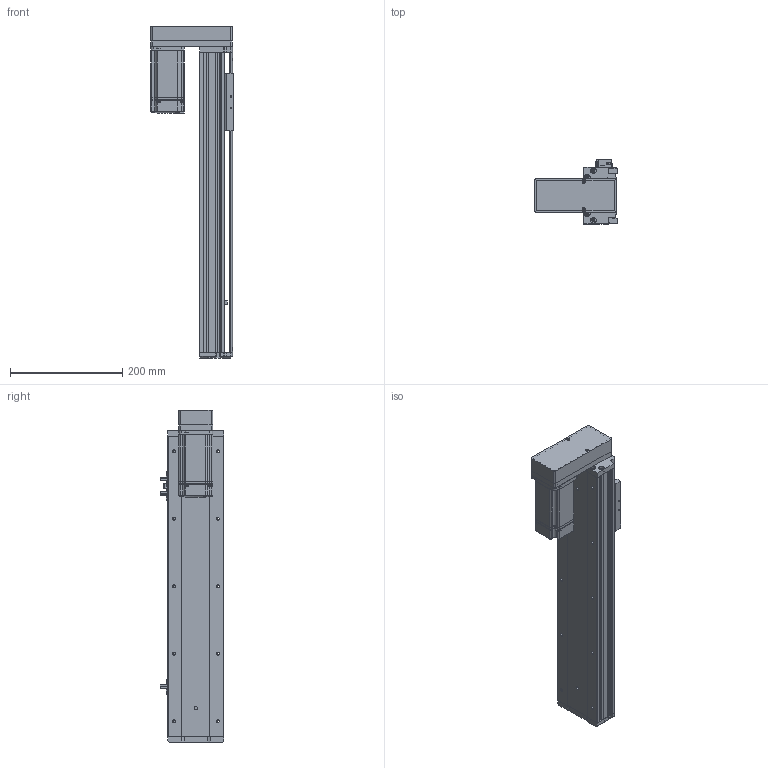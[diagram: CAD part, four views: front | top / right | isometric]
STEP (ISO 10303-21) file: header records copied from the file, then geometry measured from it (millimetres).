
FILE_DESCRIPTION (( 'STEP AP214' ), '1' );
FILE_NAME ('KSD100S-S350-MD-CM.STEP', '2019-08-30T03:16:39', ( '微软用户' ), ( '微软中国' ), 'SwSTEP 2.0', 'SolidWorks 2014', '' );
FILE_SCHEMA (( 'AUTOMOTIVE_DESIGN' ));
Length unit declared in the file: millimetre
Products named in the file (11): 100宽滚珠螺姆安装板半封闭; 100遵傷啣; 100宽底板半封闭丝杆350行程; KSD100S-S350-MD-CM; 悵誘欶奻狟殏; 100宽马达安装板连板上下折丝杆同步带; MHMD042G1CA_2_03; 覜茼え100遵圉猾敕; U倰嫖萇EEㄜSX672; 100宽防尘板丝杆350行程; 100遵鎮湛假蚾啣
Assembly tree (12 placements, depth 2):
  KSD100S-S350-MD-CM
    100宽底板半封闭丝杆350行程
    100遵傷啣
    100宽滚珠螺姆安装板半封闭
    100遵鎮湛假蚾啣
    100宽防尘板丝杆350行程
    U倰嫖萇EEㄜSX672  x3
    覜茼え100遵圉猾敕
    MHMD042G1CA_2_03
    100宽马达安装板连板上下折丝杆同步带
    悵誘欶奻狟殏
Bounding box: 147 x 113.7 x 590.5 mm (x, y, z)
Volume: 1267343.3 mm3; surface area: 516036.5 mm2
Topology: 11 solids, 12 shells, 1429 faces, 4069 edges, 2634 vertices
Faces by surface type: cylinder 646, plane 633, cone 132, bspline 18
Entity records: 53594 total; most frequent: CARTESIAN_POINT 9329, DIRECTION 7047, ORIENTED_EDGE 6678, EDGE_CURVE 3411, AXIS2_PLACEMENT_3D 2522, VERTEX_POINT 2258, LINE 2003, VECTOR 2003
